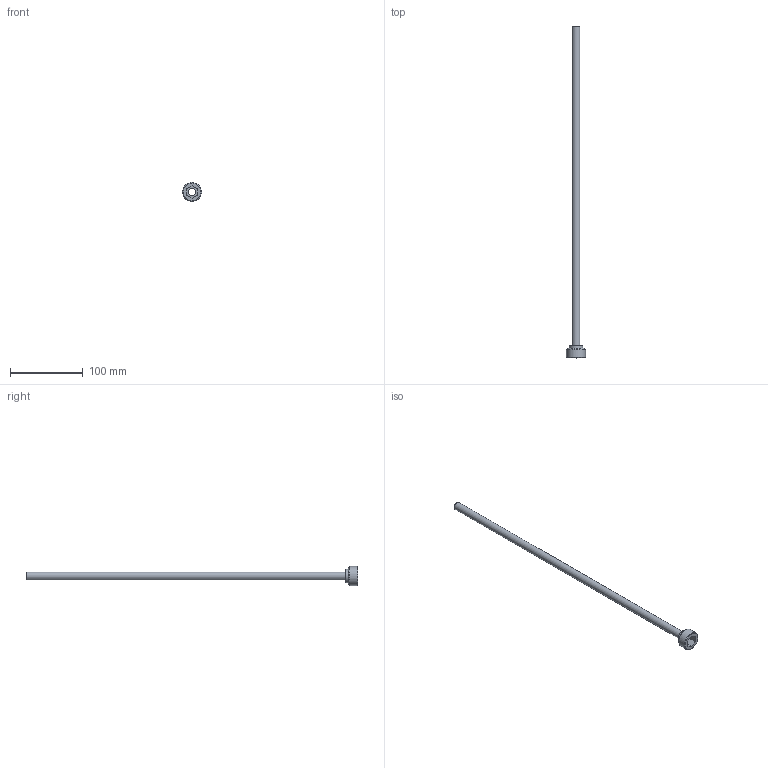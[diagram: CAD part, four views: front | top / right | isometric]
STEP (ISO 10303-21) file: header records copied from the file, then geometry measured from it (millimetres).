
FILE_DESCRIPTION(/* description */ (''),/* implementation_level */ '2;1');
FILE_NAME(/* name */ 'C:/Users/drich/Desktop/PT34-437-18 v1.step',/* time_stamp */ '2019-12-27T15:47:16-06:00',/* author */ (''),/* organization */ (''),/* preprocessor_version */ 'ST-DEVELOPER v18',/* originating_system */ 'Autodesk Translation Framework v8.12.0.6',/* authorisation */ '');
FILE_SCHEMA (('AUTOMOTIVE_DESIGN { 1 0 10303 214 3 1 1 }'));
Length unit declared in the file: inch
Products named in the file (1): PT34-437-18
Bounding box: 26.3 x 457.2 x 26.3 mm (x, y, z)
Volume: 10955.9 mm3; surface area: 31798.3 mm2
Topology: 1 solids, 1 shells, 19 faces, 48 edges, 34 vertices
Faces by surface type: plane 11, cylinder 4, torus 2, cone 2
Full cylindrical faces by diameter (mm): 10.084 x1, 10.82 x1, 19.05 x1, 26.299 x1
Entity records: 633 total; most frequent: DIRECTION 112, CARTESIAN_POINT 102, ORIENTED_EDGE 96, EDGE_CURVE 48, AXIS2_PLACEMENT_3D 44, VERTEX_POINT 34, CIRCLE 24, EDGE_LOOP 24
